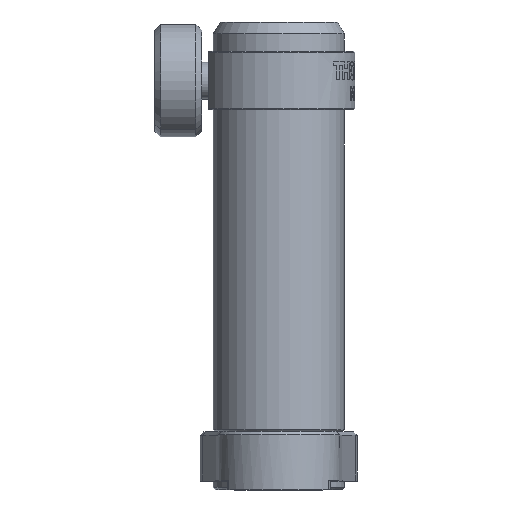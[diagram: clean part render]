
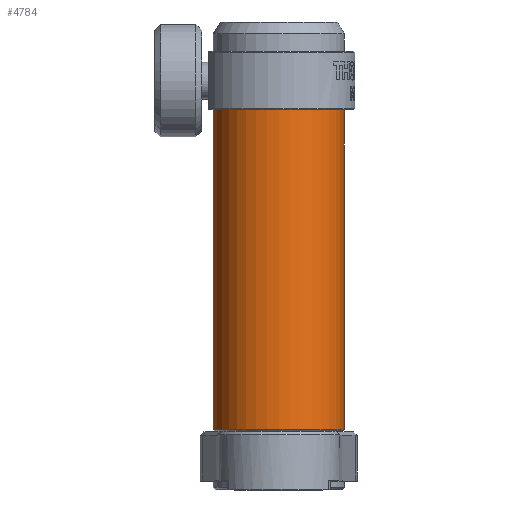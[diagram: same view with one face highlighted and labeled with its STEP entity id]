
A CAD part, top view. The second image highlights one B-rep face of the part: STEP entity #4784.
In plain terms, the highlighted cylindrical face has radius 7.112 mm (diameter 14.224 mm), a partial arc.
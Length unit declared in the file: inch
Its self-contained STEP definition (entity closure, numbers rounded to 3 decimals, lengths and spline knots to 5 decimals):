
#143 = CARTESIAN_POINT ( 'NONE',  ( -0.28, 1.997, 0. ) ) ;
#811 = EDGE_LOOP ( 'NONE', ( #4949, #22485, #20420, #15781 ) ) ;
#1166 = CARTESIAN_POINT ( 'NONE',  ( 0., 1.622, 0. ) ) ;
#1849 = VERTEX_POINT ( 'NONE', #16975 ) ;
#2333 = VECTOR ( 'NONE', #7611, 39.37008 ) ;
#2475 = VERTEX_POINT ( 'NONE', #6651 ) ;
#2655 = CARTESIAN_POINT ( 'NONE',  ( 0., 0.257, 0. ) ) ;
#2750 = CIRCLE ( 'NONE', #11395, 0.28 ) ;
#3068 = DIRECTION ( 'NONE',  ( -1., 0., 0. ) ) ;
#4568 = DIRECTION ( 'NONE',  ( -1., 0., 0. ) ) ;
#4784 = ADVANCED_FACE ( 'NONE', ( #9417 ), #21532, .T. ) ;
#4949 = ORIENTED_EDGE ( 'NONE', *, *, #4971, .F. ) ;
#4971 = EDGE_CURVE ( 'NONE', #15061, #2475, #14750, .T. ) ;
#5180 = AXIS2_PLACEMENT_3D ( 'NONE', #14634, #14136, #18629 ) ;
#5398 = CARTESIAN_POINT ( 'NONE',  ( -0.28, 1.622, 0. ) ) ;
#6651 = CARTESIAN_POINT ( 'NONE',  ( 0.28, 1.622, 0. ) ) ;
#7611 = DIRECTION ( 'NONE',  ( 0., -1., 0. ) ) ;
#8149 = VERTEX_POINT ( 'NONE', #10636 ) ;
#9417 = FACE_OUTER_BOUND ( 'NONE', #811, .T. ) ;
#10636 = CARTESIAN_POINT ( 'NONE',  ( 0.28, 0.257, 0. ) ) ;
#11395 = AXIS2_PLACEMENT_3D ( 'NONE', #2655, #15798, #4568 ) ;
#13322 = CARTESIAN_POINT ( 'NONE',  ( 0.28, 1.997, 0. ) ) ;
#13659 = EDGE_CURVE ( 'NONE', #1849, #8149, #2750, .T. ) ;
#14136 = DIRECTION ( 'NONE',  ( 0., -1., 0. ) ) ;
#14354 = DIRECTION ( 'NONE',  ( 0., 1., 0. ) ) ;
#14634 = CARTESIAN_POINT ( 'NONE',  ( 0., 1.997, 0. ) ) ;
#14750 = CIRCLE ( 'NONE', #14790, 0.28 ) ;
#14790 = AXIS2_PLACEMENT_3D ( 'NONE', #1166, #14354, #3068 ) ;
#14875 = LINE ( 'NONE', #143, #19870 ) ;
#15061 = VERTEX_POINT ( 'NONE', #5398 ) ;
#15781 = ORIENTED_EDGE ( 'NONE', *, *, #23731, .F. ) ;
#15798 = DIRECTION ( 'NONE',  ( 0., 1., 0. ) ) ;
#16975 = CARTESIAN_POINT ( 'NONE',  ( -0.28, 0.257, 0. ) ) ;
#18629 = DIRECTION ( 'NONE',  ( 1., 0., 0. ) ) ;
#19870 = VECTOR ( 'NONE', #22336, 39.37008 ) ;
#20420 = ORIENTED_EDGE ( 'NONE', *, *, #13659, .T. ) ;
#21532 = CYLINDRICAL_SURFACE ( 'NONE', #5180, 0.28 ) ;
#21724 = EDGE_CURVE ( 'NONE', #15061, #1849, #14875, .T. ) ;
#22336 = DIRECTION ( 'NONE',  ( 0., -1., 0. ) ) ;
#22375 = LINE ( 'NONE', #13322, #2333 ) ;
#22485 = ORIENTED_EDGE ( 'NONE', *, *, #21724, .T. ) ;
#23731 = EDGE_CURVE ( 'NONE', #2475, #8149, #22375, .T. ) ;
